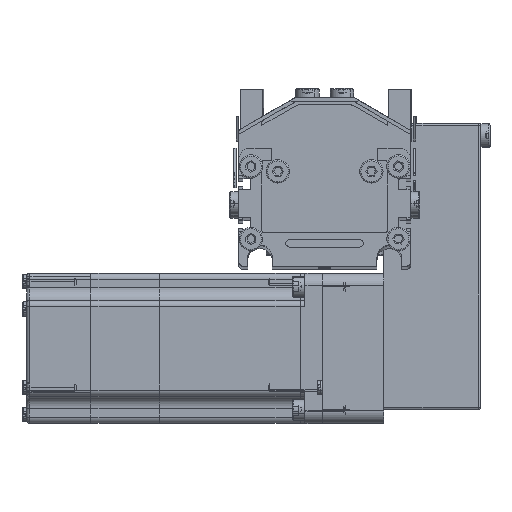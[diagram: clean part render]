
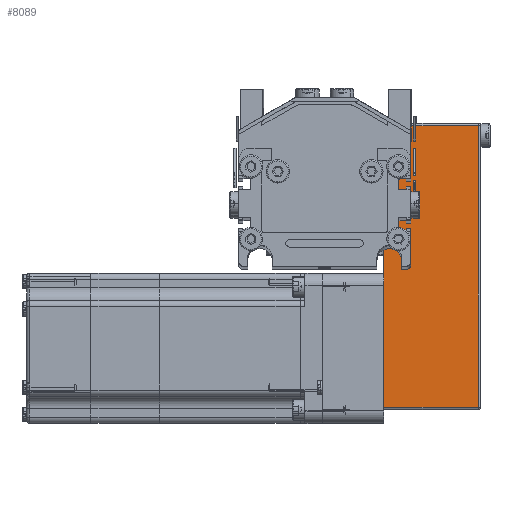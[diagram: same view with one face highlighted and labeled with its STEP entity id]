
A CAD part, top view. The second image highlights one B-rep face of the part: STEP entity #8089.
In plain terms, the highlighted planar face has unit normal (0, 0, 1) as drawn and (0, -1, 0) by its records, which use the part's own axes.
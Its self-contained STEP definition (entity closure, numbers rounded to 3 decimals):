
#7425 = EDGE_CURVE ( 'NONE', #7813, #7815, #160506, .T. ) ;
#7813 = VERTEX_POINT ( 'NONE', #160827 ) ;
#7815 = VERTEX_POINT ( 'NONE', #160874 ) ;
#7843 = EDGE_CURVE ( 'NONE', #7899, #8066, #160813, .T. ) ;
#7899 = VERTEX_POINT ( 'NONE', #160682 ) ;
#8066 = VERTEX_POINT ( 'NONE', #160940 ) ;
#8084 = EDGE_CURVE ( 'NONE', #7815, #7899, #160949, .T. ) ;
#8089 = ADVANCED_FACE ( 'NONE', ( #160958 ), #160966, .F. ) ;
#8093 = ORIENTED_EDGE ( 'NONE', *, *, #7425, .T. ) ;
#8097 = ORIENTED_EDGE ( 'NONE', *, *, #8226, .T. ) ;
#8224 = ORIENTED_EDGE ( 'NONE', *, *, #7843, .T. ) ;
#8226 = EDGE_CURVE ( 'NONE', #8066, #7813, #161098, .T. ) ;
#8358 = EDGE_LOOP ( 'NONE', ( #8224, #8097, #8093, #8363 ) ) ;
#8363 = ORIENTED_EDGE ( 'NONE', *, *, #8084, .T. ) ;
#160434 = VECTOR ( 'NONE', #160511, 1000. ) ;
#160506 = LINE ( 'NONE', #160512, #160434 ) ;
#160511 = DIRECTION ( 'NONE',  ( 1., 0., 0. ) ) ;
#160512 = CARTESIAN_POINT ( 'NONE',  ( -50., -25., 0. ) ) ;
#160682 = CARTESIAN_POINT ( 'NONE',  ( 65.5, -25., 38.5 ) ) ;
#160802 = DIRECTION ( 'NONE',  ( -1., 0., 0. ) ) ;
#160803 = VECTOR ( 'NONE', #160802, 1000. ) ;
#160804 = CARTESIAN_POINT ( 'NONE',  ( -50., -25., 38.5 ) ) ;
#160813 = LINE ( 'NONE', #160804, #160803 ) ;
#160827 = CARTESIAN_POINT ( 'NONE',  ( -49., -25., 0. ) ) ;
#160874 = CARTESIAN_POINT ( 'NONE',  ( 65.5, -25., 0. ) ) ;
#160940 = CARTESIAN_POINT ( 'NONE',  ( -49., -25., 38.5 ) ) ;
#160949 = LINE ( 'NONE', #160952, #160951 ) ;
#160951 = VECTOR ( 'NONE', #161141, 1000. ) ;
#160952 = CARTESIAN_POINT ( 'NONE',  ( 65.5, -25., 39.5 ) ) ;
#160958 = FACE_OUTER_BOUND ( 'NONE', #8358, .T. ) ;
#160966 = PLANE ( 'NONE',  #160970 ) ;
#160970 = AXIS2_PLACEMENT_3D ( 'NONE', #161139, #161138, #161137 ) ;
#161091 = DIRECTION ( 'NONE',  ( 0., 0., -1. ) ) ;
#161092 = VECTOR ( 'NONE', #161091, 1000. ) ;
#161097 = CARTESIAN_POINT ( 'NONE',  ( -49., -25., 39.5 ) ) ;
#161098 = LINE ( 'NONE', #161097, #161092 ) ;
#161137 = DIRECTION ( 'NONE',  ( 0., 0., 1. ) ) ;
#161138 = DIRECTION ( 'NONE',  ( 0., 1., 0. ) ) ;
#161139 = CARTESIAN_POINT ( 'NONE',  ( -50., -25., 39.5 ) ) ;
#161141 = DIRECTION ( 'NONE',  ( 0., 0., 1. ) ) ;
